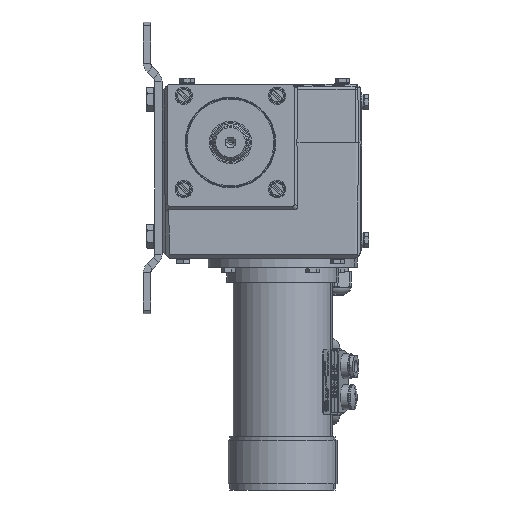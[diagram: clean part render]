
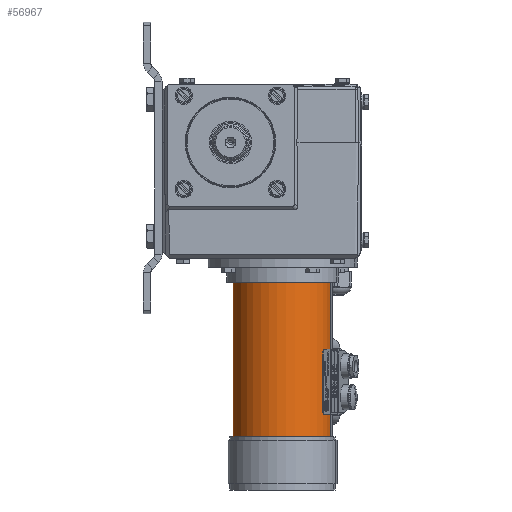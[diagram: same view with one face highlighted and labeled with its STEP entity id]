
A CAD part, left-side view. The second image highlights one B-rep face of the part: STEP entity #56967.
In plain terms, the highlighted cylindrical face has radius 40 mm (diameter 80 mm), a partial arc.
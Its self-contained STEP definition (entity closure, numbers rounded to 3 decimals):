
#8221 = EDGE_CURVE ( 'NONE', #165356, #240339, #270874, .T. ) ;
#25748 = DIRECTION ( 'NONE',  ( -0.276, -0.961, 0. ) ) ;
#28303 = AXIS2_PLACEMENT_3D ( 'NONE', #30132, #191786, #53409 ) ;
#30132 = CARTESIAN_POINT ( 'NONE',  ( 0., -42., -112.5 ) ) ;
#44763 = CIRCLE ( 'NONE', #65076, 40. ) ;
#53409 = DIRECTION ( 'NONE',  ( -0.276, -0.961, 0. ) ) ;
#53747 = ORIENTED_EDGE ( 'NONE', *, *, #205506, .F. ) ;
#56967 = ADVANCED_FACE ( 'NONE', ( #91101 ), #246713, .T. ) ;
#65076 = AXIS2_PLACEMENT_3D ( 'NONE', #248865, #110216, #272174 ) ;
#66549 = ORIENTED_EDGE ( 'NONE', *, *, #226867, .T. ) ;
#71180 = CARTESIAN_POINT ( 'NONE',  ( 0., -42., -75.738 ) ) ;
#77253 = AXIS2_PLACEMENT_3D ( 'NONE', #71180, #209677, #25748 ) ;
#83249 = ORIENTED_EDGE ( 'NONE', *, *, #215254, .T. ) ;
#91101 = FACE_OUTER_BOUND ( 'NONE', #236258, .T. ) ;
#110216 = DIRECTION ( 'NONE',  ( 0., 0., 1. ) ) ;
#116299 = ORIENTED_EDGE ( 'NONE', *, *, #8221, .F. ) ;
#118933 = CARTESIAN_POINT ( 'NONE',  ( -11.025, -80.45, -112.5 ) ) ;
#127313 = CARTESIAN_POINT ( 'NONE',  ( 11.025, -3.55, -112.5 ) ) ;
#147540 = DIRECTION ( 'NONE',  ( 0., 0., 1. ) ) ;
#152579 = CARTESIAN_POINT ( 'NONE',  ( -11.025, -80.45, -236.5 ) ) ;
#165356 = VERTEX_POINT ( 'NONE', #179212 ) ;
#179212 = CARTESIAN_POINT ( 'NONE',  ( 11.025, -3.55, -236.5 ) ) ;
#191786 = DIRECTION ( 'NONE',  ( 0., 0., 1. ) ) ;
#193161 = CARTESIAN_POINT ( 'NONE',  ( -11.025, -80.45, -75.738 ) ) ;
#202017 = VECTOR ( 'NONE', #276093, 1000. ) ;
#205506 = EDGE_CURVE ( 'NONE', #240339, #224668, #293153, .T. ) ;
#209677 = DIRECTION ( 'NONE',  ( 0., 0., 1. ) ) ;
#211666 = VERTEX_POINT ( 'NONE', #152579 ) ;
#215254 = EDGE_CURVE ( 'NONE', #211666, #224668, #234097, .T. ) ;
#224668 = VERTEX_POINT ( 'NONE', #118933 ) ;
#226820 = VECTOR ( 'NONE', #147540, 1000. ) ;
#226867 = EDGE_CURVE ( 'NONE', #165356, #211666, #44763, .T. ) ;
#234097 = LINE ( 'NONE', #193161, #226820 ) ;
#236258 = EDGE_LOOP ( 'NONE', ( #116299, #66549, #83249, #53747 ) ) ;
#240339 = VERTEX_POINT ( 'NONE', #127313 ) ;
#246713 = CYLINDRICAL_SURFACE ( 'NONE', #77253, 40. ) ;
#248865 = CARTESIAN_POINT ( 'NONE',  ( 0., -42., -236.5 ) ) ;
#270874 = LINE ( 'NONE', #297360, #202017 ) ;
#272174 = DIRECTION ( 'NONE',  ( -0.276, -0.961, 0. ) ) ;
#276093 = DIRECTION ( 'NONE',  ( 0., 0., 1. ) ) ;
#293153 = CIRCLE ( 'NONE', #28303, 40. ) ;
#297360 = CARTESIAN_POINT ( 'NONE',  ( 11.025, -3.55, -75.738 ) ) ;
